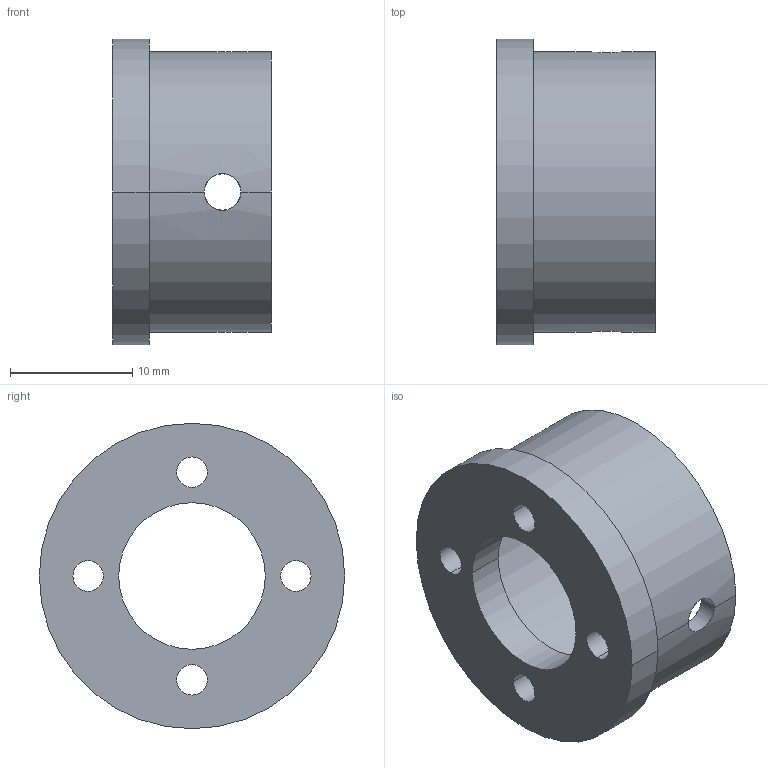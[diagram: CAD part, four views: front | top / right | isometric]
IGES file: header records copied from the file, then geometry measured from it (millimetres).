
Start section: START RECORD GO HERE.
Global section: file name: 10.igs; native system: DASSAULT SYSTEMES CATIA V5 R21 - www.3ds.com; preprocessor: CATIA Version 5 Release 21 ; author: E___; organization: MSI; date: 20160805.154306; units: millimetre
Bounding box: 13 x 25 x 25 mm (x, y, z)
Surface area: 2510.2 mm2 (no closed solid volume)
Topology: 0 solids, 0 shells, 24 faces, 128 edges, 128 vertices
Faces by surface type: revolution 20, plane 4
